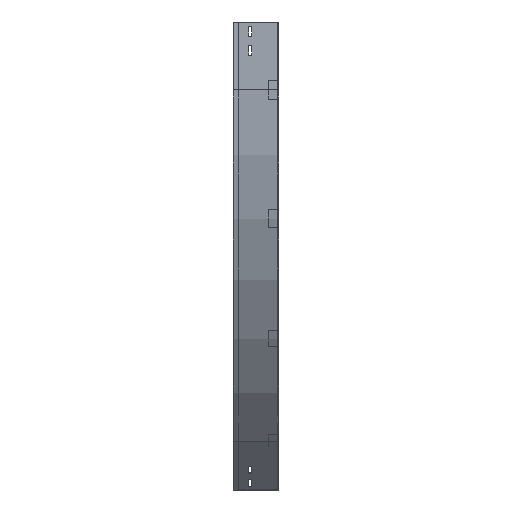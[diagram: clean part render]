
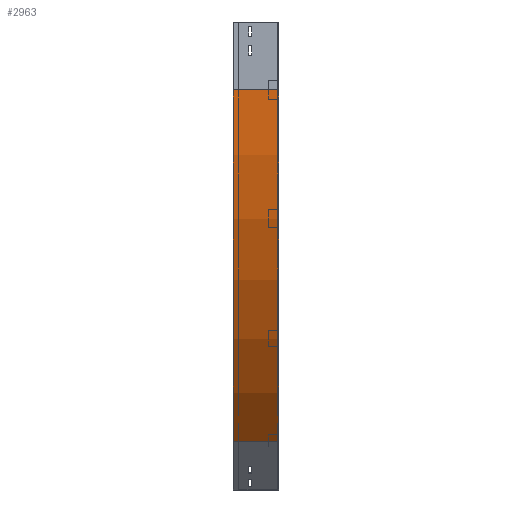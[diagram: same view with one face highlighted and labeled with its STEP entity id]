
A CAD part, left-side view. The second image highlights one B-rep face of the part: STEP entity #2963.
In plain terms, the highlighted cylindrical face has radius 1100 mm (diameter 2200 mm), a partial arc.
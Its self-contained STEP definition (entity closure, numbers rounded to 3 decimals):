
#160 = CARTESIAN_POINT ( 'NONE',  ( 0., 0., -150. ) ) ;
#350 = VECTOR ( 'NONE', #2061, 1000. ) ;
#413 = CARTESIAN_POINT ( 'NONE',  ( 1100., 0., -150. ) ) ;
#430 = DIRECTION ( 'NONE',  ( 0., -1., 0. ) ) ;
#440 = LINE ( 'NONE', #1371, #2451 ) ;
#469 = EDGE_CURVE ( 'NONE', #1428, #2854, #2823, .T. ) ;
#529 = FACE_OUTER_BOUND ( 'NONE', #985, .T. ) ;
#560 = DIRECTION ( 'NONE',  ( 0., -1., 0. ) ) ;
#985 = EDGE_LOOP ( 'NONE', ( #2836, #1030, #3835, #3800 ) ) ;
#1030 = ORIENTED_EDGE ( 'NONE', *, *, #469, .F. ) ;
#1118 = DIRECTION ( 'NONE',  ( -1., 0., 0. ) ) ;
#1126 = AXIS2_PLACEMENT_3D ( 'NONE', #2071, #2336, #3516 ) ;
#1144 = CYLINDRICAL_SURFACE ( 'NONE', #1126, 1100. ) ;
#1321 = CIRCLE ( 'NONE', #1701, 1100. ) ;
#1335 = CARTESIAN_POINT ( 'NONE',  ( 0., 0., -150. ) ) ;
#1371 = CARTESIAN_POINT ( 'NONE',  ( 322.183, 0., -927.817 ) ) ;
#1380 = VERTEX_POINT ( 'NONE', #2608 ) ;
#1428 = VERTEX_POINT ( 'NONE', #3511 ) ;
#1701 = AXIS2_PLACEMENT_3D ( 'NONE', #3805, #560, #1118 ) ;
#1724 = EDGE_CURVE ( 'NONE', #2669, #1380, #440, .T. ) ;
#1912 = EDGE_CURVE ( 'NONE', #1428, #2669, #1321, .T. ) ;
#2061 = DIRECTION ( 'NONE',  ( 0., -1., 0. ) ) ;
#2071 = CARTESIAN_POINT ( 'NONE',  ( 1100., 0., -150. ) ) ;
#2336 = DIRECTION ( 'NONE',  ( 0., -1., 0. ) ) ;
#2373 = AXIS2_PLACEMENT_3D ( 'NONE', #413, #430, #3678 ) ;
#2451 = VECTOR ( 'NONE', #2564, 1000. ) ;
#2564 = DIRECTION ( 'NONE',  ( 0., -1., 0. ) ) ;
#2608 = CARTESIAN_POINT ( 'NONE',  ( 322.183, 0., -927.817 ) ) ;
#2628 = CIRCLE ( 'NONE', #2373, 1100. ) ;
#2669 = VERTEX_POINT ( 'NONE', #3734 ) ;
#2823 = LINE ( 'NONE', #160, #350 ) ;
#2836 = ORIENTED_EDGE ( 'NONE', *, *, #3207, .F. ) ;
#2854 = VERTEX_POINT ( 'NONE', #1335 ) ;
#2963 = ADVANCED_FACE ( 'NONE', ( #529 ), #1144, .T. ) ;
#3207 = EDGE_CURVE ( 'NONE', #2854, #1380, #2628, .T. ) ;
#3511 = CARTESIAN_POINT ( 'NONE',  ( 0., 100., -150. ) ) ;
#3516 = DIRECTION ( 'NONE',  ( 0., 0., -1. ) ) ;
#3678 = DIRECTION ( 'NONE',  ( -1., 0., 0. ) ) ;
#3734 = CARTESIAN_POINT ( 'NONE',  ( 322.183, 100., -927.817 ) ) ;
#3800 = ORIENTED_EDGE ( 'NONE', *, *, #1724, .T. ) ;
#3805 = CARTESIAN_POINT ( 'NONE',  ( 1100., 100., -150. ) ) ;
#3835 = ORIENTED_EDGE ( 'NONE', *, *, #1912, .T. ) ;
